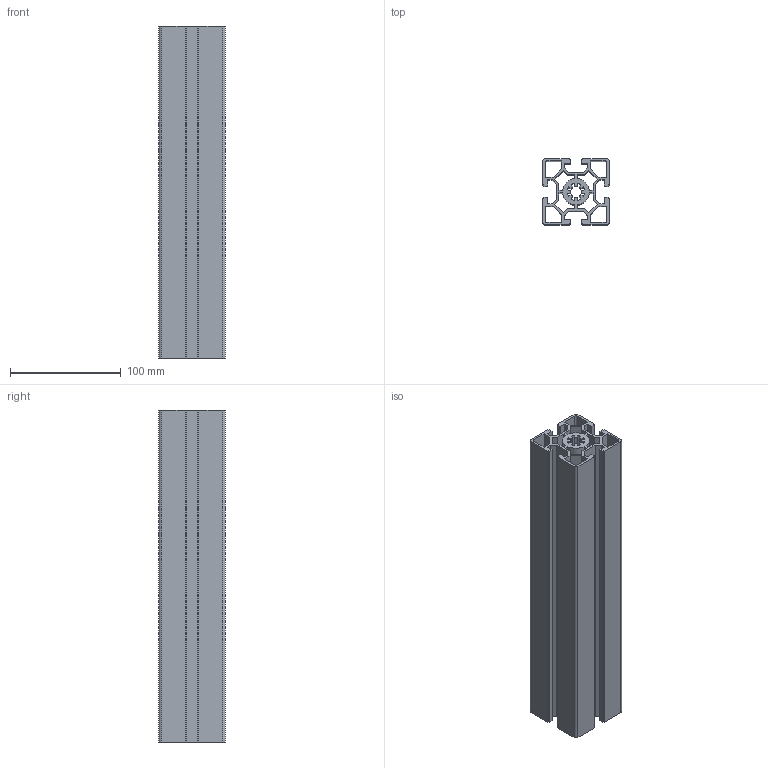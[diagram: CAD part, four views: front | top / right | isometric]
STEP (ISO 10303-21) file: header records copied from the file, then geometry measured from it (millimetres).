
FILE_DESCRIPTION (( 'STEP AP203' ), '1' );
FILE_NAME ('36-CE-6060W-10.STEP', '2015-07-07T03:45:17', ( '' ), ( '' ), 'SwSTEP 2.0', 'SolidWorks 2013', '' );
FILE_SCHEMA (( 'CONFIG_CONTROL_DESIGN' ));
Length unit declared in the file: millimetre
Products named in the file (1): 36-CE-6060W-10
Bounding box: 60 x 60 x 300 mm (x, y, z)
Volume: 392722.9 mm3; surface area: 285792.6 mm2
Topology: 1 solids, 1 shells, 155 faces, 459 edges, 306 vertices
Faces by surface type: plane 126, cylinder 29
Entity records: 5244 total; most frequent: CARTESIAN_POINT 921, ORIENTED_EDGE 918, DIRECTION 829, EDGE_CURVE 459, VECTOR 401, LINE 401, VERTEX_POINT 306, AXIS2_PLACEMENT_3D 214
